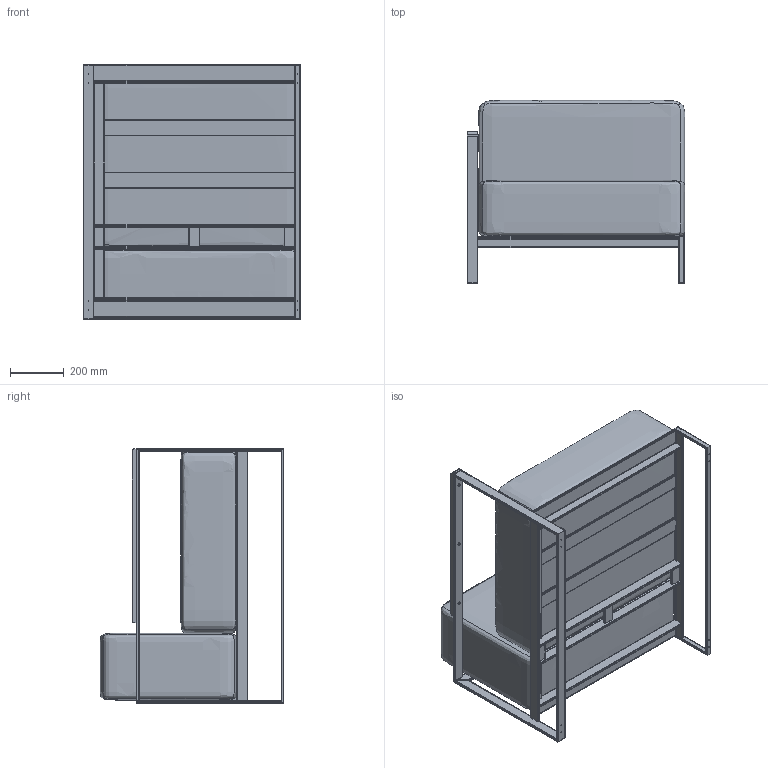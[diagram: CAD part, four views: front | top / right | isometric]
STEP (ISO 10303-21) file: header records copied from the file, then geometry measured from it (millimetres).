
FILE_DESCRIPTION(/* description */ (''),/* implementation_level */ '2;1');
FILE_NAME(/* name */ 'C:\Vault_WF\Designs\RF\Step\Moore Left.stp',/* time_stamp */ '2021-06-28T08:44:43+02:00',/* author */ ('Röshults'),/* organization */ (''),/* preprocessor_version */ 'ST-DEVELOPER v18.1',/* originating_system */ 'Autodesk Inventor 2021',/* authorisation */ '');
FILE_SCHEMA (('AUTOMOTIVE_DESIGN { 1 0 10303 214 3 1 1 }'));
Length unit declared in the file: millimetre
Products named in the file (34): Assembly1; 100759-1; 100759-2; 100754; Frame 1583767261881; Skeleton 1583767261882; CSN EN 10305-5 - 20 x 10 x 1,5  - 548,5; CSN EN 10305-5 - 20 x 10 x 1,5  - 950; CSN EN 10305-5 - 20 x 10 x 1,5  - 175; CSN EN 10305-5 - 20 x 10 x 1,5  - 940; CSN EN 10305-5 - 30 x 10 x 1,5  - 930; CSN EN 10305-5 - 30 x 10 x 1,5  - 333; CSN EN 10305-5 - 40 x 10 x 1,5  - 790; CSN EN 10305-5 - 40 x 10 x 1,5  - 940; CSN EN 10305-5 - 40 x 10 x 1,5  - 550; CSN EN 10305-5 - 40 x 10 x 1,5  - 550_1; CSN EN 10305-5 - 40 x 10 x 1,5  - 950; CSN EN 10305-5 - 40 x 10 x 1,5  - 750; CSN EN 10305-5 - 40 x 10 x 1,5  - 750_1; CSN EN 10305-5 - 40 x 10 x 1,5  - 750_2; CSN EN 10305-5 - 40 x 10 x 1,5  - 750_3; CSN EN 10305-5 - 40 x 10 x 1,5  - 930; CSN EN 10305-5 - 40 x 10 x 1,5  - 526; CSN EN 10305-5 - 60 x 10 x 1,5  - 750; CSN EN 10305-5 - 60 x 10 x 1,5  - 710; CSN EN 10305-5 - 60 x 10 x 1,5  - 710_1; CSN EN 10305-5 - 60 x 10 x 1,5  - 750_1; CSN EN 10305-5 - 40 x 10 x 1,5  - 182; CSN EN 10305-5 - 40 x 10 x 1,5  - 72; CSN EN 10305-5 - 40 x 10 x 1,5  - 72_1; CSN EN 10305-5 - 40 x 10 x 1,5  - 72_2; End Cap 20x10; End Cap 30x10; 100527
Assembly tree (33 placements, depth 4):
  Assembly1
    100759-1
    100759-2
    100754
      Frame 1583767261881
        Skeleton 1583767261882
        CSN EN 10305-5 - 20 x 10 x 1,5  - 548,5
        CSN EN 10305-5 - 20 x 10 x 1,5  - 950
        CSN EN 10305-5 - 20 x 10 x 1,5  - 175
        CSN EN 10305-5 - 20 x 10 x 1,5  - 940
        CSN EN 10305-5 - 30 x 10 x 1,5  - 930
        CSN EN 10305-5 - 30 x 10 x 1,5  - 333
        CSN EN 10305-5 - 40 x 10 x 1,5  - 790
        CSN EN 10305-5 - 40 x 10 x 1,5  - 940
        CSN EN 10305-5 - 40 x 10 x 1,5  - 550
        CSN EN 10305-5 - 40 x 10 x 1,5  - 550_1
        CSN EN 10305-5 - 40 x 10 x 1,5  - 950
        CSN EN 10305-5 - 40 x 10 x 1,5  - 750
        CSN EN 10305-5 - 40 x 10 x 1,5  - 750_1
        CSN EN 10305-5 - 40 x 10 x 1,5  - 750_2
        CSN EN 10305-5 - 40 x 10 x 1,5  - 750_3
        CSN EN 10305-5 - 40 x 10 x 1,5  - 930
        CSN EN 10305-5 - 40 x 10 x 1,5  - 526
        CSN EN 10305-5 - 60 x 10 x 1,5  - 750
        CSN EN 10305-5 - 60 x 10 x 1,5  - 710
        CSN EN 10305-5 - 60 x 10 x 1,5  - 710_1
        CSN EN 10305-5 - 60 x 10 x 1,5  - 750_1
        CSN EN 10305-5 - 40 x 10 x 1,5  - 182
        CSN EN 10305-5 - 40 x 10 x 1,5  - 72
        CSN EN 10305-5 - 40 x 10 x 1,5  - 72_1
        CSN EN 10305-5 - 40 x 10 x 1,5  - 72_2
      End Cap 20x10
      End Cap 30x10
      100527
Bounding box: 812.57 x 685 x 950 mm (x, y, z)
Volume: 208748336.3 mm3; surface area: 5781471.4 mm2
Topology: 30 solids, 30 shells, 520 faces, 1369 edges, 909 vertices
Faces by surface type: plane 268, cylinder 233, bspline 12, torus 4, cone 3
Full cylindrical faces by diameter (mm): 2.5 x3, 3.242 x8, 5 x3, 10 x3
Entity records: 22238 total; most frequent: CARTESIAN_POINT 7614, DIRECTION 2962, ORIENTED_EDGE 2732, EDGE_CURVE 1366, AXIS2_PLACEMENT_3D 1045, VERTEX_POINT 909, LINE 872, VECTOR 872
